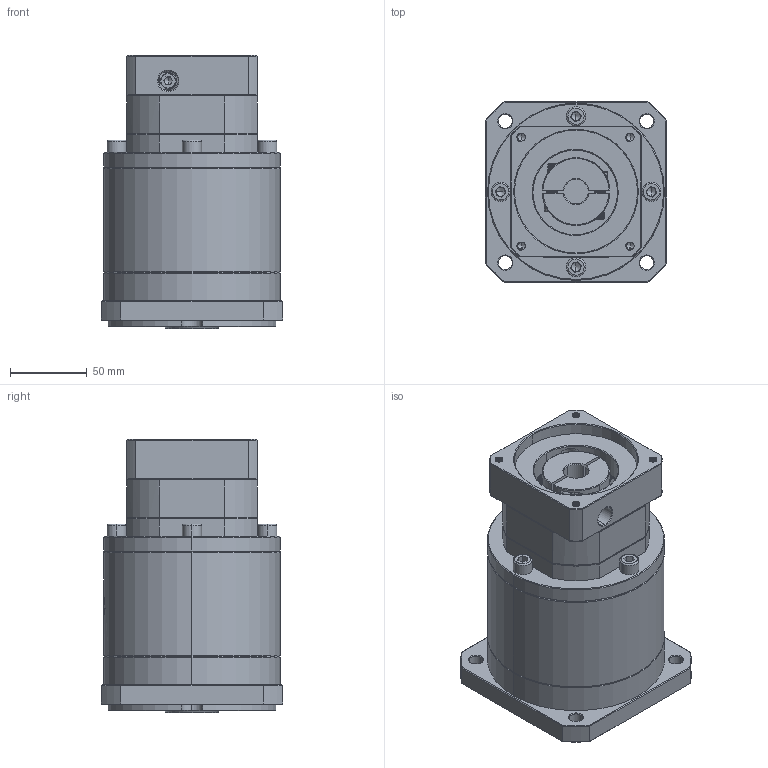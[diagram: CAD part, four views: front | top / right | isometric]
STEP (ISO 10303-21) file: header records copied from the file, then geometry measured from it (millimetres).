
FILE_DESCRIPTION (( 'STEP AP214' ), '1' );
FILE_NAME ('ZF120A-K25-L3-P2-16-80-100-M6.step', '2023-08-27T06:03:04', ( '' ), ( '' ), 'SwSTEP 2.0', 'SolidWorks 2016', '' );
FILE_SCHEMA (( 'AUTOMOTIVE_DESIGN' ));
Length unit declared in the file: millimetre
Products named in the file (1): ZF120A-K25-L3-P2-16-80-100-M6
Bounding box: 118 x 118 x 177.5 mm (x, y, z)
Volume: 1519521.1 mm3; surface area: 135917.8 mm2
Topology: 5 solids, 6 shells, 2155 faces, 5735 edges, 3679 vertices
Faces by surface type: plane 1057, bspline 410, cylinder 369, cone 304, torus 15
Entity records: 115663 total; most frequent: CARTESIAN_POINT 43578, ORIENTED_EDGE 11414, DIRECTION 8242, EDGE_CURVE 5707, VERTEX_POINT 3679, LINE 3044, VECTOR 3044, AXIS2_PLACEMENT_3D 2599
